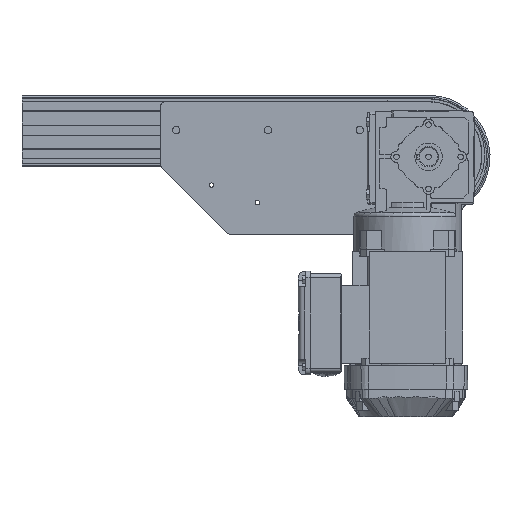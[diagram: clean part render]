
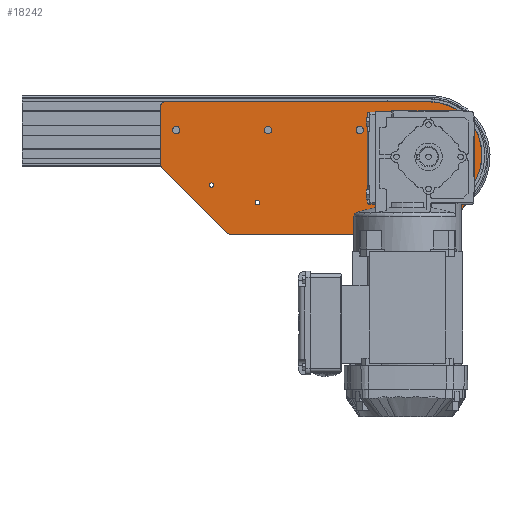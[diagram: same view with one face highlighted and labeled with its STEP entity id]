
A CAD part, front view. The second image highlights one B-rep face of the part: STEP entity #18242.
In plain terms, the highlighted planar face has unit normal (0, -1, 0) as drawn and (0, 0, -1) by its records, which use the part's own axes.
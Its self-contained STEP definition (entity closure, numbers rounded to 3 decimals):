
#260=FACE_BOUND('',#2101,.T.);
#261=FACE_BOUND('',#2102,.T.);
#262=FACE_BOUND('',#2103,.T.);
#263=FACE_BOUND('',#2104,.T.);
#264=FACE_BOUND('',#2105,.T.);
#265=FACE_BOUND('',#2106,.T.);
#266=FACE_BOUND('',#2107,.T.);
#267=FACE_BOUND('',#2108,.T.);
#530=PLANE('',#19572);
#1089=FACE_OUTER_BOUND('',#2100,.T.);
#2100=EDGE_LOOP('',(#12790,#12791,#12792,#12793,#12794,#12795,#12796,#12797,
#12798,#12799));
#2101=EDGE_LOOP('',(#12800));
#2102=EDGE_LOOP('',(#12801));
#2103=EDGE_LOOP('',(#12802));
#2104=EDGE_LOOP('',(#12803));
#2105=EDGE_LOOP('',(#12804));
#2106=EDGE_LOOP('',(#12805));
#2107=EDGE_LOOP('',(#12806));
#2108=EDGE_LOOP('',(#12807));
#3123=CIRCLE('',#19523,13.);
#3125=CIRCLE('',#19526,4.);
#3127=CIRCLE('',#19529,4.);
#3129=CIRCLE('',#19532,4.);
#3131=CIRCLE('',#19535,4.);
#3133=CIRCLE('',#19538,4.);
#3135=CIRCLE('',#19541,2.5);
#3137=CIRCLE('',#19544,2.5);
#3145=CIRCLE('',#19558,5.);
#3146=CIRCLE('',#19560,5.);
#3147=CIRCLE('',#19563,5.);
#3148=CIRCLE('',#19566,32.5);
#3150=CIRCLE('',#19570,58.);
#4278=LINE('',#27556,#5984);
#4287=LINE('',#27587,#5993);
#4290=LINE('',#27595,#5996);
#4293=LINE('',#27603,#5999);
#4296=LINE('',#27612,#6002);
#5984=VECTOR('',#21940,62.79);
#5993=VECTOR('',#21971,101.961);
#5996=VECTOR('',#21980,218.716);
#5999=VECTOR('',#21989,48.308);
#6002=VECTOR('',#22000,287.);
#7636=VERTEX_POINT('',#27482);
#7638=VERTEX_POINT('',#27488);
#7640=VERTEX_POINT('',#27494);
#7642=VERTEX_POINT('',#27500);
#7644=VERTEX_POINT('',#27506);
#7646=VERTEX_POINT('',#27512);
#7648=VERTEX_POINT('',#27518);
#7650=VERTEX_POINT('',#27524);
#7661=VERTEX_POINT('',#27553);
#7662=VERTEX_POINT('',#27555);
#7671=VERTEX_POINT('',#27577);
#7672=VERTEX_POINT('',#27581);
#7673=VERTEX_POINT('',#27585);
#7674=VERTEX_POINT('',#27589);
#7675=VERTEX_POINT('',#27593);
#7676=VERTEX_POINT('',#27597);
#7677=VERTEX_POINT('',#27601);
#7679=VERTEX_POINT('',#27607);
#9596=EDGE_CURVE('',#7636,#7636,#3123,.T.);
#9599=EDGE_CURVE('',#7638,#7638,#3125,.T.);
#9602=EDGE_CURVE('',#7640,#7640,#3127,.T.);
#9605=EDGE_CURVE('',#7642,#7642,#3129,.T.);
#9608=EDGE_CURVE('',#7644,#7644,#3131,.T.);
#9611=EDGE_CURVE('',#7646,#7646,#3133,.T.);
#9614=EDGE_CURVE('',#7648,#7648,#3135,.T.);
#9617=EDGE_CURVE('',#7650,#7650,#3137,.T.);
#9632=EDGE_CURVE('',#7661,#7662,#4278,.T.);
#9643=EDGE_CURVE('',#7662,#7671,#3145,.T.);
#9646=EDGE_CURVE('',#7672,#7661,#3146,.T.);
#9648=EDGE_CURVE('',#7673,#7672,#4287,.T.);
#9650=EDGE_CURVE('',#7674,#7673,#3147,.T.);
#9652=EDGE_CURVE('',#7675,#7674,#4290,.T.);
#9654=EDGE_CURVE('',#7676,#7675,#3148,.T.);
#9656=EDGE_CURVE('',#7677,#7676,#4293,.T.);
#9659=EDGE_CURVE('',#7679,#7677,#3150,.T.);
#9661=EDGE_CURVE('',#7671,#7679,#4296,.T.);
#12790=ORIENTED_EDGE('',*,*,#9661,.F.);
#12791=ORIENTED_EDGE('',*,*,#9643,.F.);
#12792=ORIENTED_EDGE('',*,*,#9632,.F.);
#12793=ORIENTED_EDGE('',*,*,#9646,.F.);
#12794=ORIENTED_EDGE('',*,*,#9648,.F.);
#12795=ORIENTED_EDGE('',*,*,#9650,.F.);
#12796=ORIENTED_EDGE('',*,*,#9652,.F.);
#12797=ORIENTED_EDGE('',*,*,#9654,.F.);
#12798=ORIENTED_EDGE('',*,*,#9656,.F.);
#12799=ORIENTED_EDGE('',*,*,#9659,.F.);
#12800=ORIENTED_EDGE('',*,*,#9617,.T.);
#12801=ORIENTED_EDGE('',*,*,#9614,.T.);
#12802=ORIENTED_EDGE('',*,*,#9611,.T.);
#12803=ORIENTED_EDGE('',*,*,#9608,.T.);
#12804=ORIENTED_EDGE('',*,*,#9605,.T.);
#12805=ORIENTED_EDGE('',*,*,#9602,.T.);
#12806=ORIENTED_EDGE('',*,*,#9599,.T.);
#12807=ORIENTED_EDGE('',*,*,#9596,.T.);
#18242=ADVANCED_FACE('',(#1089,#260,#261,#262,#263,#264,#265,#266,#267),
#530,.F.);
#19523=AXIS2_PLACEMENT_3D('',#27483,#21865,#21866);
#19526=AXIS2_PLACEMENT_3D('',#27489,#21872,#21873);
#19529=AXIS2_PLACEMENT_3D('',#27495,#21879,#21880);
#19532=AXIS2_PLACEMENT_3D('',#27501,#21886,#21887);
#19535=AXIS2_PLACEMENT_3D('',#27507,#21893,#21894);
#19538=AXIS2_PLACEMENT_3D('',#27513,#21900,#21901);
#19541=AXIS2_PLACEMENT_3D('',#27519,#21907,#21908);
#19544=AXIS2_PLACEMENT_3D('',#27525,#21914,#21915);
#19558=AXIS2_PLACEMENT_3D('',#27578,#21960,#21961);
#19560=AXIS2_PLACEMENT_3D('',#27583,#21966,#21967);
#19563=AXIS2_PLACEMENT_3D('',#27591,#21975,#21976);
#19566=AXIS2_PLACEMENT_3D('',#27599,#21984,#21985);
#19570=AXIS2_PLACEMENT_3D('',#27609,#21995,#21996);
#19572=AXIS2_PLACEMENT_3D('',#27613,#22001,#22002);
#21865=DIRECTION('center_axis',(0.,0.,1.));
#21866=DIRECTION('ref_axis',(1.,0.,0.));
#21872=DIRECTION('center_axis',(0.,0.,1.));
#21873=DIRECTION('ref_axis',(1.,0.,0.));
#21879=DIRECTION('center_axis',(0.,0.,1.));
#21880=DIRECTION('ref_axis',(1.,0.,0.));
#21886=DIRECTION('center_axis',(0.,0.,1.));
#21887=DIRECTION('ref_axis',(1.,0.,0.));
#21893=DIRECTION('center_axis',(0.,0.,1.));
#21894=DIRECTION('ref_axis',(1.,0.,0.));
#21900=DIRECTION('center_axis',(0.,0.,1.));
#21901=DIRECTION('ref_axis',(1.,0.,0.));
#21907=DIRECTION('center_axis',(0.,0.,1.));
#21908=DIRECTION('ref_axis',(1.,0.,0.));
#21914=DIRECTION('center_axis',(0.,0.,1.));
#21915=DIRECTION('ref_axis',(1.,0.,0.));
#21940=DIRECTION('',(0.,1.,0.));
#21960=DIRECTION('center_axis',(0.,0.,1.));
#21961=DIRECTION('ref_axis',(1.,0.,0.));
#21966=DIRECTION('center_axis',(0.,0.,1.));
#21967=DIRECTION('ref_axis',(1.,0.,0.));
#21971=DIRECTION('',(0.706,0.708,0.));
#21975=DIRECTION('center_axis',(0.,0.,1.));
#21976=DIRECTION('ref_axis',(1.,0.,0.));
#21980=DIRECTION('',(1.,0.,0.));
#21984=DIRECTION('center_axis',(0.,0.,1.));
#21985=DIRECTION('ref_axis',(1.,0.,0.));
#21989=DIRECTION('',(0.406,-0.914,0.));
#21995=DIRECTION('center_axis',(0.,0.,1.));
#21996=DIRECTION('ref_axis',(1.,0.,0.));
#22000=DIRECTION('',(-1.,0.,0.));
#22001=DIRECTION('center_axis',(0.,0.,1.));
#22002=DIRECTION('ref_axis',(1.,0.,0.));
#27482=CARTESIAN_POINT('',(-130.,12.5,-3.));
#27483=CARTESIAN_POINT('Origin',(-117.,12.5,-3.));
#27488=CARTESIAN_POINT('',(-88.5,12.5,-3.));
#27489=CARTESIAN_POINT('Origin',(-84.5,12.5,-3.));
#27494=CARTESIAN_POINT('',(-153.5,12.5,-3.));
#27495=CARTESIAN_POINT('Origin',(-149.5,12.5,-3.));
#27500=CARTESIAN_POINT('',(154.,41.5,-3.));
#27501=CARTESIAN_POINT('Origin',(158.,41.5,-3.));
#27506=CARTESIAN_POINT('',(54.,41.5,-3.));
#27507=CARTESIAN_POINT('Origin',(58.,41.5,-3.));
#27512=CARTESIAN_POINT('',(-46.,41.5,-3.));
#27513=CARTESIAN_POINT('Origin',(-42.,41.5,-3.));
#27518=CARTESIAN_POINT('',(67.,-37.5,-3.));
#27519=CARTESIAN_POINT('Origin',(69.5,-37.5,-3.));
#27524=CARTESIAN_POINT('',(117.,-18.5,-3.));
#27525=CARTESIAN_POINT('Origin',(119.5,-18.5,-3.));
#27553=CARTESIAN_POINT('',(175.,4.71,-3.));
#27555=CARTESIAN_POINT('',(175.,67.5,-3.));
#27556=CARTESIAN_POINT('',(175.,4.71,-3.));
#27577=CARTESIAN_POINT('',(170.,72.5,-3.));
#27578=CARTESIAN_POINT('Origin',(170.,67.5,-3.));
#27581=CARTESIAN_POINT('',(173.541,1.18,-3.));
#27583=CARTESIAN_POINT('Origin',(170.,4.71,-3.));
#27585=CARTESIAN_POINT('',(101.557,-71.03,-3.));
#27587=CARTESIAN_POINT('',(101.557,-71.03,-3.));
#27589=CARTESIAN_POINT('',(98.016,-72.5,-3.));
#27591=CARTESIAN_POINT('Origin',(98.016,-67.5,-3.));
#27593=CARTESIAN_POINT('',(-120.7,-72.5,-3.));
#27595=CARTESIAN_POINT('',(-120.7,-72.5,-3.));
#27597=CARTESIAN_POINT('',(-150.403,-53.19,-3.));
#27599=CARTESIAN_POINT('Origin',(-120.7,-40.,-3.));
#27601=CARTESIAN_POINT('',(-170.009,-9.039,-3.));
#27603=CARTESIAN_POINT('',(-170.009,-9.039,-3.));
#27607=CARTESIAN_POINT('',(-117.,72.5,-3.));
#27609=CARTESIAN_POINT('Origin',(-117.,14.5,-3.));
#27612=CARTESIAN_POINT('',(170.,72.5,-3.));
#27613=CARTESIAN_POINT('Origin',(31.937,-5.286,-3.));
